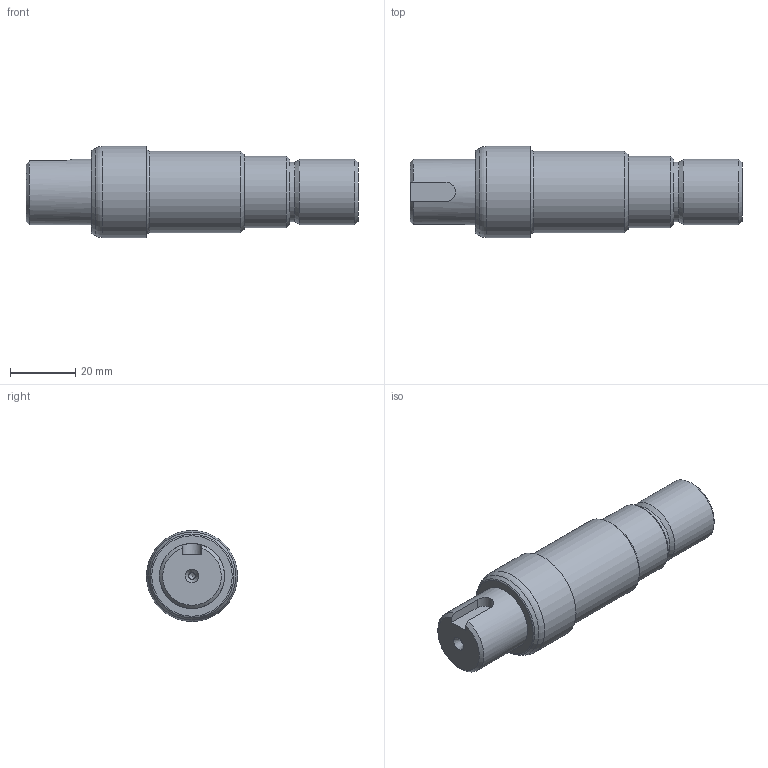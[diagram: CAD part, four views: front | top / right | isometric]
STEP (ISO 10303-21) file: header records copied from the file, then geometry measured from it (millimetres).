
FILE_DESCRIPTION(/* description */ (''),/* implementation_level */ '2;1');
FILE_NAME(/* name */ 'C:\Users\NET\Desktop\601003E1011\601003E1011.stp',/* time_stamp */ '2020-10-17T11:41:50+09:00',/* author */ ('NET'),/* organization */ (''),/* preprocessor_version */ 'ST-DEVELOPER v15.2',/* originating_system */ 'Autodesk Inventor 2014',/* authorisation */ '');
FILE_SCHEMA (('AUTOMOTIVE_DESIGN { 1 0 10303 214 3 1 1 }'));
Length unit declared in the file: millimetre
Products named in the file (1): 3축
Bounding box: 102 x 28 x 28 mm (x, y, z)
Volume: 42707 mm3; surface area: 8519.6 mm2
Topology: 1 solids, 1 shells, 31 faces, 63 edges, 38 vertices
Faces by surface type: cone 10, cylinder 9, plane 9, torus 3
Full cylindrical faces by diameter (mm): 2 x2, 18.4 x1, 20 x2, 22 x1, 25 x1, 28 x1
Entity records: 714 total; most frequent: CARTESIAN_POINT 129, DIRECTION 127, ORIENTED_EDGE 80, AXIS2_PLACEMENT_3D 59, EDGE_LOOP 55, EDGE_CURVE 40, VERTEX_POINT 35, ADVANCED_FACE 31
